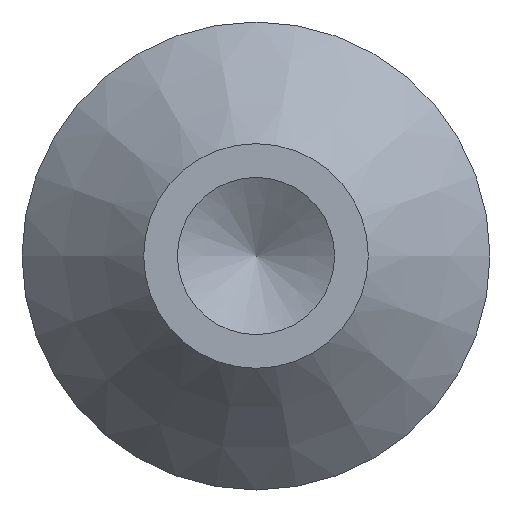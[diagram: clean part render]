
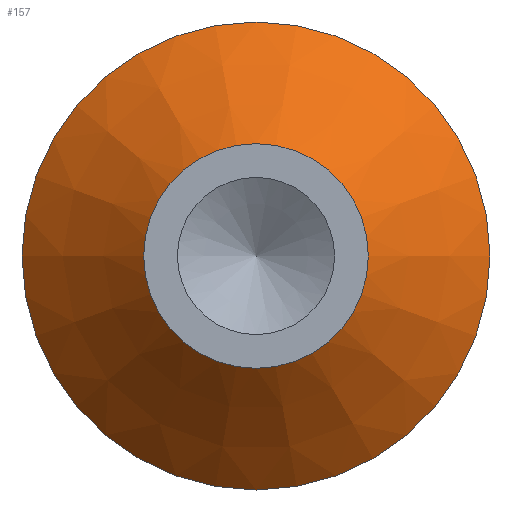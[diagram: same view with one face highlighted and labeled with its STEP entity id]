
A CAD part, left-side view. The second image highlights one B-rep face of the part: STEP entity #157.
In plain terms, the highlighted conical face has half-angle 45 degrees and reference radius 1.175 mm.
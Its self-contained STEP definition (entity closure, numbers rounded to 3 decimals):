
#21=FACE_BOUND($,#60,.T.);
#45=FACE_OUTER_BOUND($,#59,.T.);
#59=EDGE_LOOP($,(#129));
#60=EDGE_LOOP($,(#130));
#84=CIRCLE($,#177,0.762);
#86=CIRCLE($,#180,1.588);
#98=VERTEX_POINT($,#269);
#100=VERTEX_POINT($,#274);
#112=EDGE_CURVE($,#98,#98,#84,.T.);
#114=EDGE_CURVE($,#100,#100,#86,.T.);
#129=ORIENTED_EDGE($,*,*,#114,.F.);
#130=ORIENTED_EDGE($,*,*,#112,.T.);
#153=CONICAL_SURFACE($,#179,1.175,45.);
#157=ADVANCED_FACE($,(#45,#21),#153,.T.);
#177=AXIS2_PLACEMENT_3D($,#270,#213,#214);
#179=AXIS2_PLACEMENT_3D($,#273,#217,#218);
#180=AXIS2_PLACEMENT_3D($,#275,#219,#220);
#213=DIRECTION('center_axis',(1.,0.,0.));
#214=DIRECTION('ref_axis',(0.,1.,0.));
#217=DIRECTION('center_axis',(1.,0.,0.));
#218=DIRECTION('ref_axis',(0.,1.,0.));
#219=DIRECTION('center_axis',(1.,0.,0.));
#220=DIRECTION('ref_axis',(0.,1.,0.));
#269=CARTESIAN_POINT('',(3.96,0.762,0.));
#270=CARTESIAN_POINT('Origin',(3.96,0.,0.));
#273=CARTESIAN_POINT('Origin',(4.373,0.,0.));
#274=CARTESIAN_POINT('',(4.786,1.588,0.));
#275=CARTESIAN_POINT('Origin',(4.786,0.,0.));
